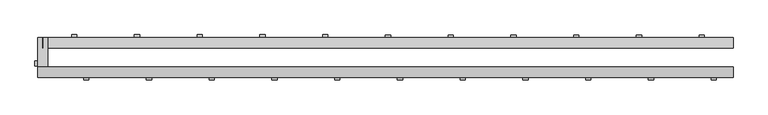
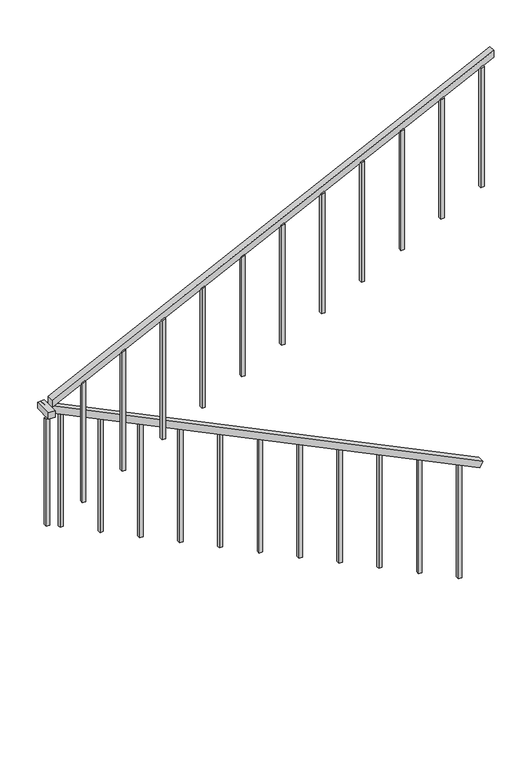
"""IFC4 building model written with IfcOpenShell, lengths in millimetres: railing geometry, ADSK_Стандартное_h 900 Поручень квадратный без направляющих."""

from ifc_helpers import new_model, si_unit, frame, origin, place, context, project, spatial, polyline, outline, extrude, source, transform, mapped, element, save


def railing_3763919b(model_context):
    return source(origin(), model_context, "Body", "SweptSolid", [
        extrude(outline(polyline([(0.0, -50.0), (0.0, 0.0), (3669.2438859, 0.0), (3669.2438859, -50.0), (0.0, -50.0)])), frame((-28903.8887632, 8387.8648158, 1000.8649406), z_axis=(0.43719270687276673, 0.0, 0.8993678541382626), x_axis=(-0.8993678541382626, 0.0, 0.43719270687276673)), (0.0, 0.0, 1.0), 50.0),
        extrude(outline(polyline([(-32207.4291278, 8437.8648158), (-32157.4291278, 8437.8648158), (-32157.4291278, 8296.2648158), (-32207.4291278, 8296.2648158), (-32207.4291278, 8437.8648158)])), frame((0.0, 0.0, 2600.0), z_axis=(0.0, 0.0, 1.0), x_axis=(1.0, 0.0, 0.0)), (0.0, 0.0, 1.0), 50.0),
        extrude(outline(polyline([(2783.4861111, -32207.4291278), (2727.8915068, -32207.4291278), (4344.4053957, -28882.0291278), (4400.0, -28882.0291278), (2783.4861111, -32207.4291278)])), frame((0.0, 8246.2648158, 0.0), z_axis=(0.0, 1.0, 0.0), x_axis=(0.0, 0.0, 1.0)), (0.0, 0.0, 1.0), 50.0),
        extrude(outline(polyline([(3354.1666667, -28986.9291278), (3354.1666667, -28961.9291278), (4311.1597222, -28961.9291278), (4299.0069444, -28986.9291278), (3354.1666667, -28986.9291278)])), frame((0.0, 8233.7648158, 0.0), z_axis=(0.0, 1.0, 0.0), x_axis=(0.0, 0.0, 1.0)), (0.0, 0.0, 1.0), 25.0),
        extrude(outline(polyline([(3208.3333333, -29286.9291278), (3208.3333333, -29261.9291278), (4165.3263889, -29261.9291278), (4153.1736111, -29286.9291278), (3208.3333333, -29286.9291278)])), frame((0.0, 8233.7648158, 0.0), z_axis=(0.0, 1.0, 0.0), x_axis=(0.0, 0.0, 1.0)), (0.0, 0.0, 1.0), 25.0),
        extrude(outline(polyline([(3062.5, -29586.9291278), (3062.5, -29561.9291278), (4019.4930556, -29561.9291278), (4007.3402778, -29586.9291278), (3062.5, -29586.9291278)])), frame((0.0, 8233.7648158, 0.0), z_axis=(0.0, 1.0, 0.0), x_axis=(0.0, 0.0, 1.0)), (0.0, 0.0, 1.0), 25.0),
        extrude(outline(polyline([(2916.6666667, -29886.9291278), (2916.6666667, -29861.9291278), (3873.6597222, -29861.9291278), (3861.5069444, -29886.9291278), (2916.6666667, -29886.9291278)])), frame((0.0, 8233.7648158, 0.0), z_axis=(0.0, 1.0, 0.0), x_axis=(0.0, 0.0, 1.0)), (0.0, 0.0, 1.0), 25.0),
        extrude(outline(polyline([(2770.8333333, -30186.9291278), (2770.8333333, -30161.9291278), (3727.8263889, -30161.9291278), (3715.6736111, -30186.9291278), (2770.8333333, -30186.9291278)])), frame((0.0, 8233.7648158, 0.0), z_axis=(0.0, 1.0, 0.0), x_axis=(0.0, 0.0, 1.0)), (0.0, 0.0, 1.0), 25.0),
        extrude(outline(polyline([(2625.0, -30486.9291278), (2625.0, -30461.9291278), (3581.9930556, -30461.9291278), (3569.8402778, -30486.9291278), (2625.0, -30486.9291278)])), frame((0.0, 8233.7648158, 0.0), z_axis=(0.0, 1.0, 0.0), x_axis=(0.0, 0.0, 1.0)), (0.0, 0.0, 1.0), 25.0),
        extrude(outline(polyline([(2479.1666667, -30786.9291278), (2479.1666667, -30761.9291278), (3436.1597222, -30761.9291278), (3424.0069444, -30786.9291278), (2479.1666667, -30786.9291278)])), frame((0.0, 8233.7648158, 0.0), z_axis=(0.0, 1.0, 0.0), x_axis=(0.0, 0.0, 1.0)), (0.0, 0.0, 1.0), 25.0),
        extrude(outline(polyline([(2333.3333333, -31086.9291278), (2333.3333333, -31061.9291278), (3290.3263889, -31061.9291278), (3278.1736111, -31086.9291278), (2333.3333333, -31086.9291278)])), frame((0.0, 8233.7648158, 0.0), z_axis=(0.0, 1.0, 0.0), x_axis=(0.0, 0.0, 1.0)), (0.0, 0.0, 1.0), 25.0),
        extrude(outline(polyline([(2187.5, -31386.9291278), (2187.5, -31361.9291278), (3144.4930556, -31361.9291278), (3132.3402778, -31386.9291278), (2187.5, -31386.9291278)])), frame((0.0, 8233.7648158, 0.0), z_axis=(0.0, 1.0, 0.0), x_axis=(0.0, 0.0, 1.0)), (0.0, 0.0, 1.0), 25.0),
        extrude(outline(polyline([(2041.6666667, -31686.9291278), (2041.6666667, -31661.9291278), (2998.6597222, -31661.9291278), (2986.5069444, -31686.9291278), (2041.6666667, -31686.9291278)])), frame((0.0, 8233.7648158, 0.0), z_axis=(0.0, 1.0, 0.0), x_axis=(0.0, 0.0, 1.0)), (0.0, 0.0, 1.0), 25.0),
        extrude(outline(polyline([(1895.8333333, -31986.9291278), (1895.8333333, -31961.9291278), (2852.8263889, -31961.9291278), (2840.6736111, -31986.9291278), (1895.8333333, -31986.9291278)])), frame((0.0, 8233.7648158, 0.0), z_axis=(0.0, 1.0, 0.0), x_axis=(0.0, 0.0, 1.0)), (0.0, 0.0, 1.0), 25.0),
        extrude(outline(polyline([(-32194.9291278, 8325.7648158), (-32194.9291278, 8300.7648158), (-32219.9291278, 8300.7648158), (-32219.9291278, 8325.7648158), (-32194.9291278, 8325.7648158)])), frame((0.0, 0.0, 1750.0), z_axis=(0.0, 0.0, 1.0), x_axis=(1.0, 0.0, 0.0)), (0.0, 0.0, 1.0), 850.0),
        extrude(outline(polyline([(2521.0069444, -32019.5291278), (2533.1597222, -32044.5291278), (1604.1666667, -32044.5291278), (1604.1666667, -32019.5291278), (2521.0069444, -32019.5291278)])), frame((0.0, 8425.3648158, 0.0), z_axis=(0.0, 1.0, 0.0), x_axis=(0.0, 0.0, 1.0)), (0.0, 0.0, 1.0), 25.0),
        extrude(outline(polyline([(2375.1736111, -31719.5291278), (2387.3263889, -31744.5291278), (1458.3333333, -31744.5291278), (1458.3333333, -31719.5291278), (2375.1736111, -31719.5291278)])), frame((0.0, 8425.3648158, 0.0), z_axis=(0.0, 1.0, 0.0), x_axis=(0.0, 0.0, 1.0)), (0.0, 0.0, 1.0), 25.0),
        extrude(outline(polyline([(2229.3402778, -31419.5291278), (2241.4930556, -31444.5291278), (1312.5, -31444.5291278), (1312.5, -31419.5291278), (2229.3402778, -31419.5291278)])), frame((0.0, 8425.3648158, 0.0), z_axis=(0.0, 1.0, 0.0), x_axis=(0.0, 0.0, 1.0)), (0.0, 0.0, 1.0), 25.0),
        extrude(outline(polyline([(2083.5069444, -31119.5291278), (2095.6597222, -31144.5291278), (1166.6666667, -31144.5291278), (1166.6666667, -31119.5291278), (2083.5069444, -31119.5291278)])), frame((0.0, 8425.3648158, 0.0), z_axis=(0.0, 1.0, 0.0), x_axis=(0.0, 0.0, 1.0)), (0.0, 0.0, 1.0), 25.0),
        extrude(outline(polyline([(1937.6736111, -30819.5291278), (1949.8263889, -30844.5291278), (1020.8333333, -30844.5291278), (1020.8333333, -30819.5291278), (1937.6736111, -30819.5291278)])), frame((0.0, 8425.3648158, 0.0), z_axis=(0.0, 1.0, 0.0), x_axis=(0.0, 0.0, 1.0)), (0.0, 0.0, 1.0), 25.0),
        extrude(outline(polyline([(1791.8402778, -30519.5291278), (1803.9930556, -30544.5291278), (875.0, -30544.5291278), (875.0, -30519.5291278), (1791.8402778, -30519.5291278)])), frame((0.0, 8425.3648158, 0.0), z_axis=(0.0, 1.0, 0.0), x_axis=(0.0, 0.0, 1.0)), (0.0, 0.0, 1.0), 25.0),
        extrude(outline(polyline([(1646.0069444, -30219.5291278), (1658.1597222, -30244.5291278), (729.1666667, -30244.5291278), (729.1666667, -30219.5291278), (1646.0069444, -30219.5291278)])), frame((0.0, 8425.3648158, 0.0), z_axis=(0.0, 1.0, 0.0), x_axis=(0.0, 0.0, 1.0)), (0.0, 0.0, 1.0), 25.0),
        extrude(outline(polyline([(1500.1736111, -29919.5291278), (1512.3263889, -29944.5291278), (583.3333333, -29944.5291278), (583.3333333, -29919.5291278), (1500.1736111, -29919.5291278)])), frame((0.0, 8425.3648158, 0.0), z_axis=(0.0, 1.0, 0.0), x_axis=(0.0, 0.0, 1.0)), (0.0, 0.0, 1.0), 25.0),
        extrude(outline(polyline([(1354.3402778, -29619.5291278), (1366.4930556, -29644.5291278), (437.5, -29644.5291278), (437.5, -29619.5291278), (1354.3402778, -29619.5291278)])), frame((0.0, 8425.3648158, 0.0), z_axis=(0.0, 1.0, 0.0), x_axis=(0.0, 0.0, 1.0)), (0.0, 0.0, 1.0), 25.0),
        extrude(outline(polyline([(1208.5069444, -29319.5291278), (1220.6597222, -29344.5291278), (291.6666667, -29344.5291278), (291.6666667, -29319.5291278), (1208.5069444, -29319.5291278)])), frame((0.0, 8425.3648158, 0.0), z_axis=(0.0, 1.0, 0.0), x_axis=(0.0, 0.0, 1.0)), (0.0, 0.0, 1.0), 25.0),
        extrude(outline(polyline([(1062.6736111, -29019.5291278), (1074.8263889, -29044.5291278), (145.8333333, -29044.5291278), (145.8333333, -29019.5291278), (1062.6736111, -29019.5291278)])), frame((0.0, 8425.3648158, 0.0), z_axis=(0.0, 1.0, 0.0), x_axis=(0.0, 0.0, 1.0)), (0.0, 0.0, 1.0), 25.0),
    ])


if __name__ == "__main__":
    model = new_model("IFC4")
    model_context = context("Model", 3, world=origin())
    ifc_project = project(units=[si_unit("LENGTHUNIT", "METRE", prefix="MILLI")], contexts=[model_context])
    site = spatial("IfcSite", under=ifc_project)
    building = spatial("IfcBuilding", under=site)
    placement = place(None, origin())
    railing_shape = railing_3763919b(model_context)
    element("IfcRailing", 1, ObjectType="ADSK_Стандартное_h 900 Поручень квадратный без направляющих", at=placement, inside=building, context=model_context, shape_type="MappedRepresentation", body=[
        mapped(railing_shape, transform((0.0, 0.0, 0.0), x_axis=(1.0, 0.0, 0.0), y_axis=(0.0, 1.0, 0.0), z_axis=(0.0, 0.0, 1.0))),
    ])
    save(model, "model.ifc")
